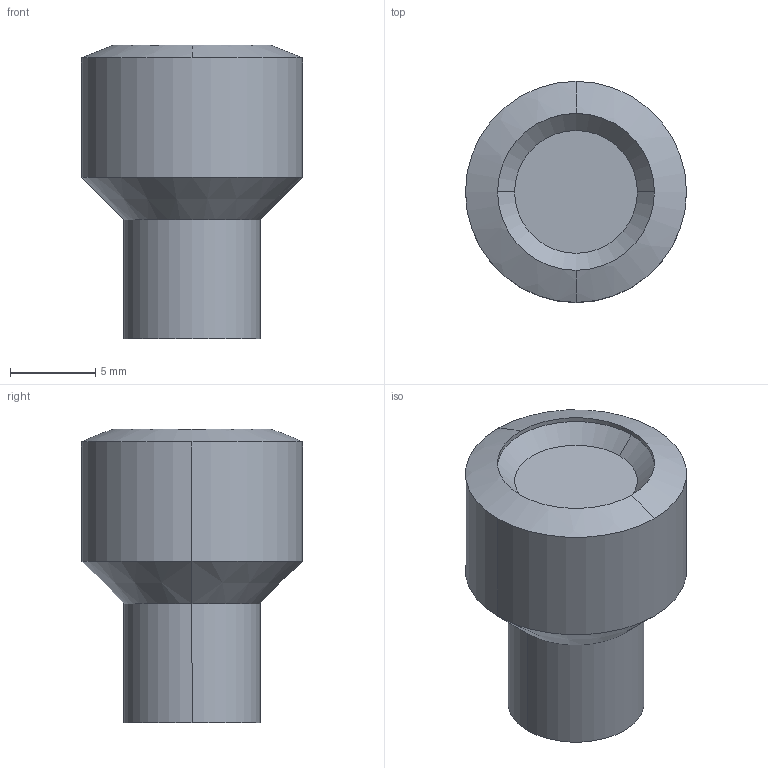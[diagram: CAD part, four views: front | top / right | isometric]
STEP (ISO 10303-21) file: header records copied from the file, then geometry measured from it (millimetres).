
FILE_DESCRIPTION (( 'STEP AP203' ), '1' );
FILE_NAME ('eye.step', '2023-08-15T08:05:32', ( '' ), ( '' ), 'SwSTEP 2.0', 'SolidWorks 2020', '' );
FILE_SCHEMA (( 'CONFIG_CONTROL_DESIGN' ));
Length unit declared in the file: millimetre
Products named in the file (1): eye
Bounding box: 13 x 13 x 17.27 mm (x, y, z)
Volume: 1444.9 mm3; surface area: 858 mm2
Topology: 1 solids, 1 shells, 19 faces, 42 edges, 26 vertices
Faces by surface type: plane 7, cylinder 6, cone 4, sphere 2
Entity records: 605 total; most frequent: DIRECTION 102, CARTESIAN_POINT 88, ORIENTED_EDGE 84, EDGE_CURVE 42, AXIS2_PLACEMENT_3D 40, VERTEX_POINT 26, LINE 22, VECTOR 22
